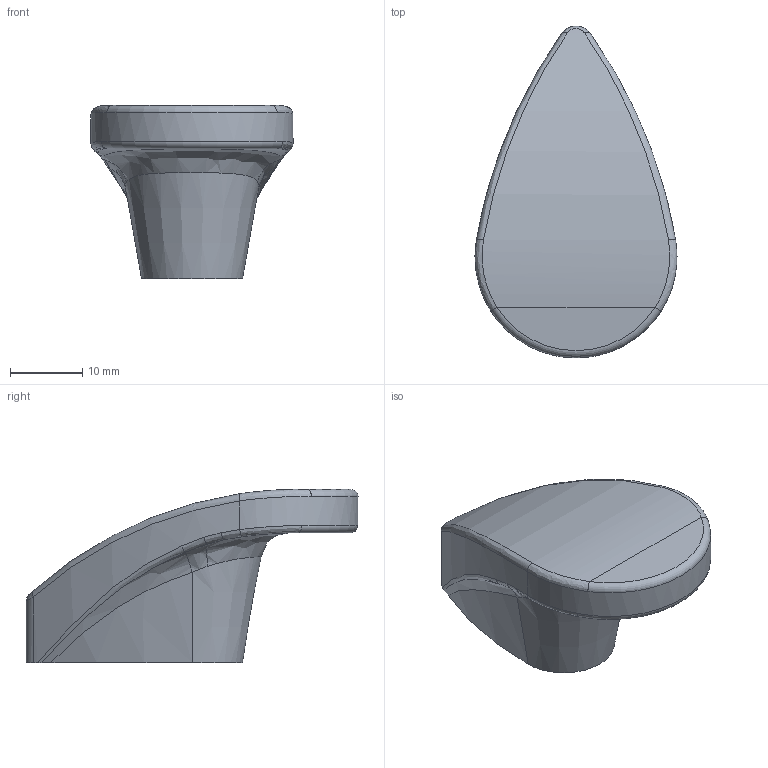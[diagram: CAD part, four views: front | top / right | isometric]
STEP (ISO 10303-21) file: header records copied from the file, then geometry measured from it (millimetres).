
FILE_DESCRIPTION(/* description */ (''),/* implementation_level */ '2;1');
FILE_NAME(/* name */ 'D:\$WorkingFolder\Designs\Meblowka\uchwyty\GZ-VENICE\GZ-VENICE.stp',/* time_stamp */ '2020-12-16T13:01:53+01:00',/* author */ ('ElizaL'),/* organization */ (''),/* preprocessor_version */ 'ST-DEVELOPER v18.1',/* originating_system */ 'Autodesk Inventor 2020',/* authorisation */ '');
FILE_SCHEMA (('AUTOMOTIVE_DESIGN { 1 0 10303 214 3 1 1 }'));
Length unit declared in the file: millimetre
Products named in the file (1): GZ-VENICE
Bounding box: 27.99 x 46 x 24.01 mm (x, y, z)
Volume: 10613.3 mm3; surface area: 3490.7 mm2
Topology: 1 solids, 1 shells, 39 faces, 98 edges, 61 vertices
Faces by surface type: bspline 20, cylinder 8, cone 6, plane 3, torus 2
Full cylindrical faces by diameter (mm): 3.242 x2
Entity records: 1811 total; most frequent: CARTESIAN_POINT 966, ORIENTED_EDGE 192, DIRECTION 126, EDGE_CURVE 96, VERTEX_POINT 61, AXIS2_PLACEMENT_3D 57, B_SPLINE_CURVE_WITH_KNOTS 47, EDGE_LOOP 41
